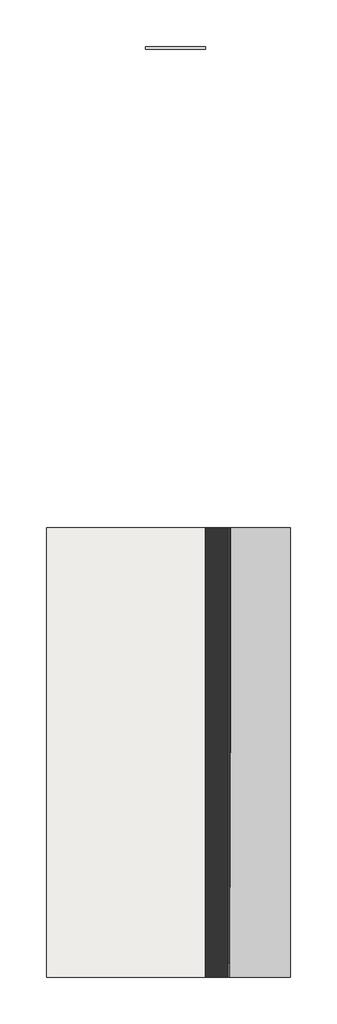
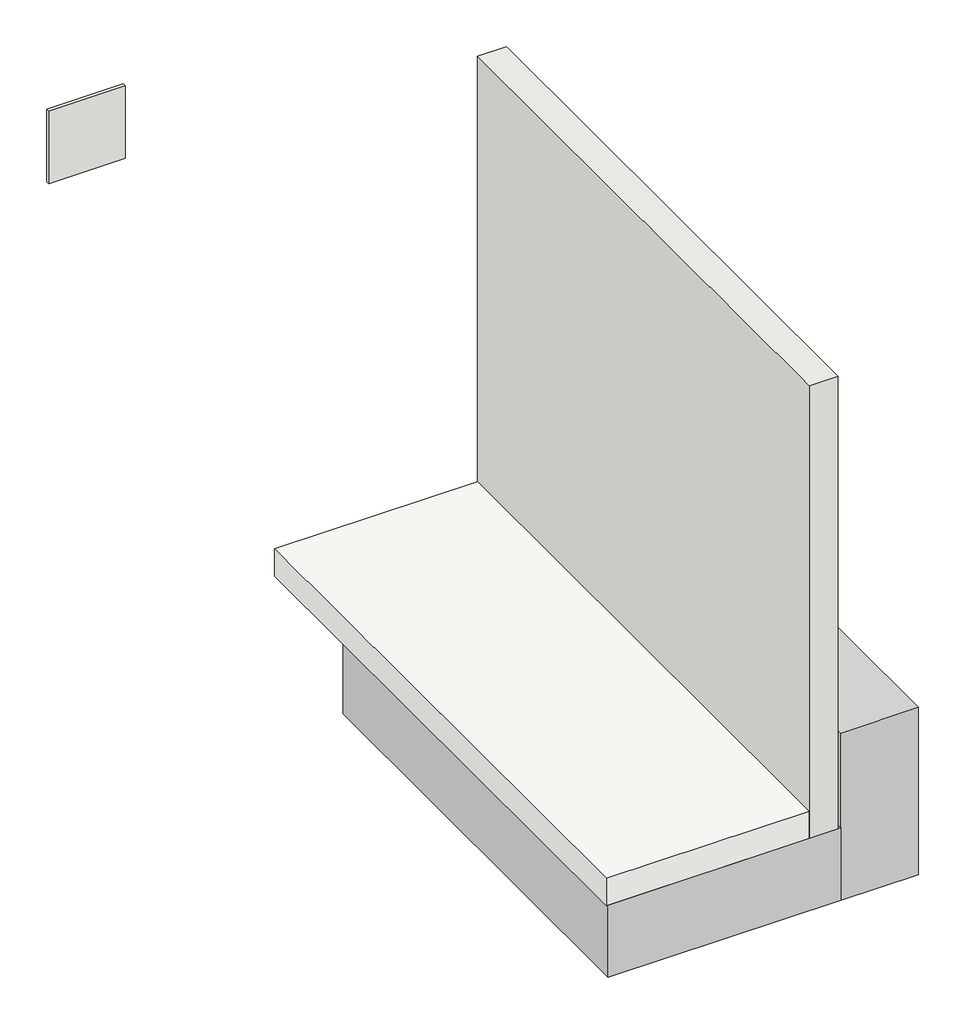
# One storey: 2 walls, 1 proxy, 1 slab.
"""IFC4 building model written with IfcOpenShell, lengths in millimetres."""

from ifc_helpers import new_model, si_unit, frame, origin, place, context, project, spatial, polyline, outline, extrude, transform, mapped, element, save
from components import generic_models_85db5eae

model = new_model("IFC4")

# Units and contexts
model_context = context("Model", 3, world=origin())
ifc_project = project(units=[si_unit("LENGTHUNIT", "METRE", prefix="MILLI")], contexts=[model_context])

# Site, building, storey
site = spatial("IfcSite", under=ifc_project)
building = spatial("IfcBuilding", under=site)
storey = spatial("IfcBuildingStorey", under=building, Name="ARQ Térreo", Elevation=-2.523798)

# Proxy
placement = place(None, origin())
generic_models_shape = generic_models_85db5eae(model_context)
element("IfcBuildingElementProxy", 1, Name="IMPER:IMPER:433934 : IMPER:IMPER:433934", ObjectType="IMPER:IMPER:433934 : IMPER:IMPER:433934", at=placement, inside=storey, context=model_context, shape_type="MappedRepresentation", body=[
    mapped(generic_models_shape, transform((0.0, 0.0, 0.0), x_axis=(1.0, 0.0, 0.0), y_axis=(0.0, 1.0, 0.0), z_axis=(0.0, 0.0, 1.0))),
])

# Slab
element("IfcSlab", 2, ObjectType="Genérico 150 mm", at=placement, inside=storey, context=model_context, shape_type="SweptSolid", body=[
    extrude(outline(polyline([(-1562.7804486, 145.8700195), (-501.9704105, 145.8700195), (-501.9704105, -2854.1299805), (-1562.7804486, -2854.1299805), (-1562.7804486, 145.8700195)])), frame((0.0, 0.0, -2.523798), z_axis=(0.0, 0.0, 1.0), x_axis=(1.0, 0.0, 0.0)), (0.0, 0.0, 1.0), 150.0),
])

# Walls
element("IfcWall", 3, ObjectType="Parede básica:Parede Concreto", at=placement, inside=storey, context=model_context, shape_type="SweptSolid", body=[
    extrude(outline(polyline([(-501.9704105, -2854.1299805), (-501.9704105, 145.8700195), (-351.9704105, 145.8700195), (-351.9704105, -2854.1299805), (-501.9704105, -2854.1299805)])), frame((0.0, 0.0, -2.523798), z_axis=(0.0, 0.0, 1.0), x_axis=(1.0, 0.0, 0.0)), (0.0, 0.0, 1.0), 2500.0),
])
element("IfcWall", 4, ObjectType="IMPV_T4PP", at=placement, inside=storey, context=model_context, shape_type="SweptSolid", body=[
    extrude(outline(polyline([(-901.9704105, 3355.3700195), (-501.9704105, 3355.3700195), (-501.9704105, 3336.3700195), (-901.9704105, 3336.3700195), (-901.9704105, 3355.3700195)])), frame((0.0, 0.0, -2.523798), z_axis=(0.0, 0.0, 1.0), x_axis=(1.0, 0.0, 0.0)), (0.0, 0.0, 1.0), 400.0),
])

save(model, "model.ifc")
